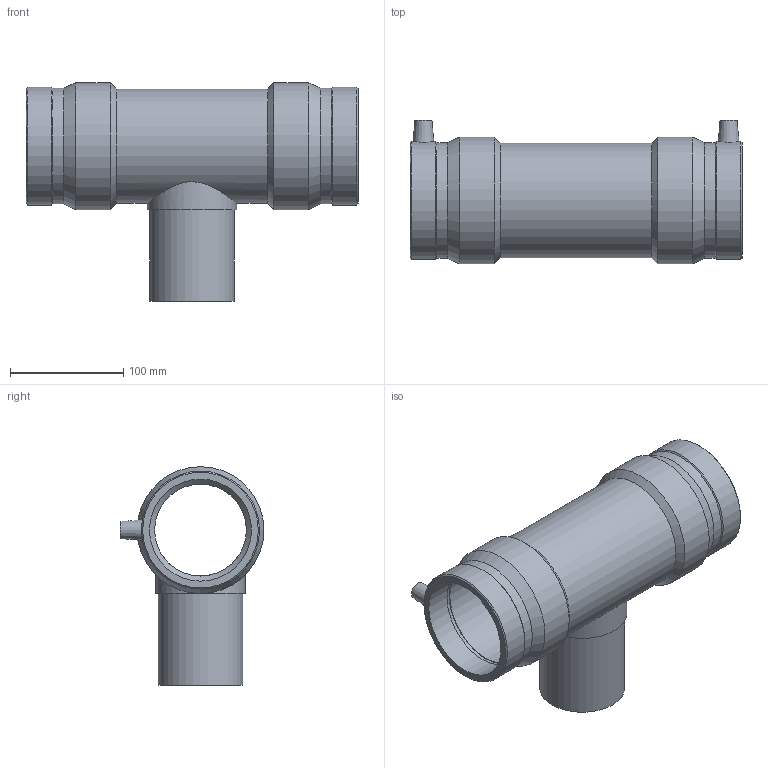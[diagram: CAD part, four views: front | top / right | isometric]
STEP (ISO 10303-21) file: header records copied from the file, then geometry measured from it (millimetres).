
FILE_DESCRIPTION(/* description */ ('PLASSON REDUCING TEE 90x75x90'),/* implementation_level */ '2;1');
FILE_NAME(/* name */ 'C:\Users\Lenora\Dropbox\99-16-3568-Processing\ElectroFusion Fittings\491404\491404090075.ipt.stp',/* time_stamp */ '2020-12-06T22:39:26+03:00',/* author */ ('KIM'),/* organization */ (''),/* preprocessor_version */ 'ST-DEVELOPER v17.2',/* originating_system */ 'Autodesk Inventor 2019',/* authorisation */ '');
FILE_SCHEMA (('AUTOMOTIVE_DESIGN { 1 0 10303 214 3 1 1 }'));
Length unit declared in the file: millimetre
Products named in the file (1): 491404090075
Bounding box: 293 x 127 x 193 mm (x, y, z)
Volume: 957062.4 mm3; surface area: 220734.3 mm2
Topology: 1 solids, 1 shells, 45 faces, 112 edges, 79 vertices
Faces by surface type: cylinder 19, cone 14, plane 12
Full cylindrical faces by diameter (mm): 4 x2, 10 x2, 60 x1, 75 x1, 78.75 x1, 81 x1, 90 x4, 100.8 x1, 102.077 x2, 104.16 x2, 112 x2
Entity records: 1634 total; most frequent: CARTESIAN_POINT 437, DIRECTION 267, ORIENTED_EDGE 224, AXIS2_PLACEMENT_3D 117, EDGE_CURVE 112, VERTEX_POINT 79, CIRCLE 71, EDGE_LOOP 59
